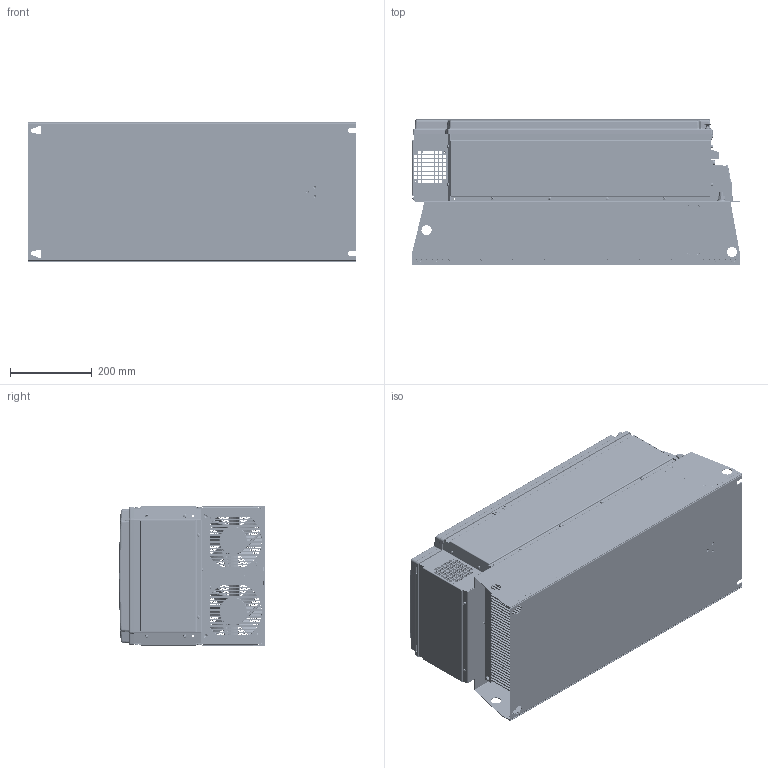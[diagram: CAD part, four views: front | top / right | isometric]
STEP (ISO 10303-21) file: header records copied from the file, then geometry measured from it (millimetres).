
FILE_DESCRIPTION (( 'STEP AP214' ), '1' );
FILE_NAME ('U0F5T00-0000.STEP', '2014-02-24T08:50:56', ( 'KEB' ), ( 'Karl E. Brinkmann GmbH' ), 'SwSTEP 2.0', 'SolidWorks 2013', '' );
FILE_SCHEMA (( 'AUTOMOTIVE_DESIGN' ));
Length unit declared in the file: millimetre
Products named in the file (84): 10000392_000_00.F5.060-1000 OPERATOR ; 10003659_000; 10003197_000; 10001538_000; 10001530_000; 10003034_000; 10000571_000; 10003199_000; 10002545_000; 10002665_000_ohne Litzen; 10001513_000; 10003148_000; 10003800_000; 10002549_000; 10000237_000; 10003345_000_00.F5.T75-0009 ABDECKUNG; 10003149_000; 10000820_000_S-M4-1 (Blechst„rke min.1,0); 10000891_000; 10000820_000_S-M3-2 (Blechst„rke min.1,4); 10000395_000; 10003668_000; 10000002_000; 10000955_000; 10000273_000_mit Bef-Material; 10003801_000; 10000844_000; 10000820_000_S-M4-2 (Blechst„rke min.1,4); 10000954_000; 10003168_000; 10003196_000; 10003169_000; 10002455_000; 10000272_000_mit Bef-Material; 10000564_000_mit Bef-Material; 10003106_000; 10002593_000; 10003146_000; U0F5T00-0000; 10001016_000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
Assembly tree (342 placements, depth 5):
  U0F5T00-0000
    10025586_000
      10000291_000
        10003196_000
        10003800_000  x2
          10003801_000
          10000820_000_S-M4-1 (Blechst„rke min.1,0)
        10003199_000
        10003197_000
        10000888_000  x4
        10003198_000
        10003200_000
        10000889_000  x12
        10000871_000  x2
        10000862_000  x2
        10000892_000  x6
        10000856_000_Klemmber. 4mm  x42
        10000856_000_Klemmber. 3mm  x22
        10008906_000  x5
      10000258_000
        10000237_000
          10003106_000
          10000820_000_S-M4-2 (Blechst„rke min.1,4)  x4
          10000820_000_S-M3-2 (Blechst„rke min.1,4)
        10002665_000_ohne Litzen  x2
        10001530_000  x5
        10001692_000_M 4 A  x4
        10001519_000_M4x45  x4
        10002616_000
        10001494_000_M 3 x 22
        10002691_000  x2
      10000275_000
        10003170_000
        10003171_000  x38
    10000272_000_mit Bef-Material
      10003167_000
      10000888_000  x2
      10003146_000
      10001530_000  x6
    10000273_000_mit Bef-Material
      10003168_000
      10000888_000  x2
      10003146_000
      10001530_000  x6
    10000571_000
      10003668_000
      10003149_000  x2
      10003148_000  x2
    10000563_000_mit Befestigungsmaterial
      10003659_000
      10003658_000
      10000821_000  x11
      10001530_000  x2
    10000570_000_mit Bef.-Material
      10003667_000
      10000881_000  x4
      10001530_000  x6
      10000896_000  x10
      10000888_000  x10
      10000876_000  x3
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Bounding box: 800 x 357 x 340.01 mm (x, y, z)
Volume: 18121707 mm3; surface area: 10836247.4 mm2
Topology: 349 solids, 349 shells, 19105 faces, 47762 edges, 30294 vertices
Faces by surface type: plane 10009, cylinder 4520, bspline 1920, cone 1698, torus 809, sphere 149
Entity records: 509073 total; most frequent: CARTESIAN_POINT 173559, ORIENTED_EDGE 61494, DIRECTION 53797, EDGE_CURVE 30747, LINE 20619, VECTOR 20619, VERTEX_POINT 19826, AXIS2_PLACEMENT_3D 16589
